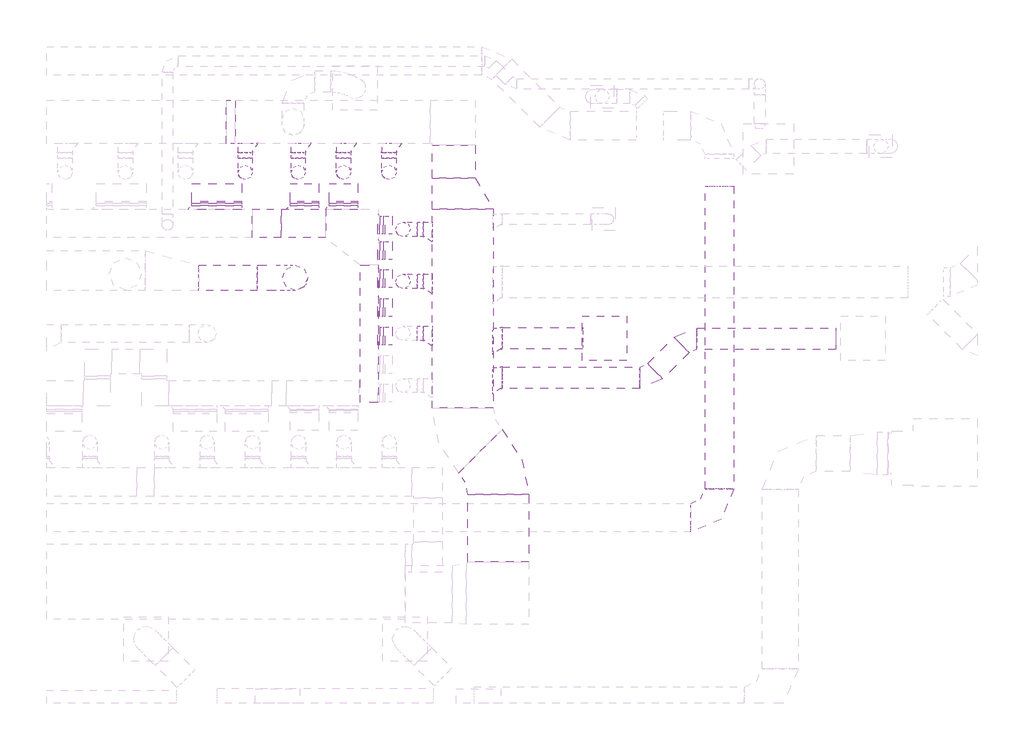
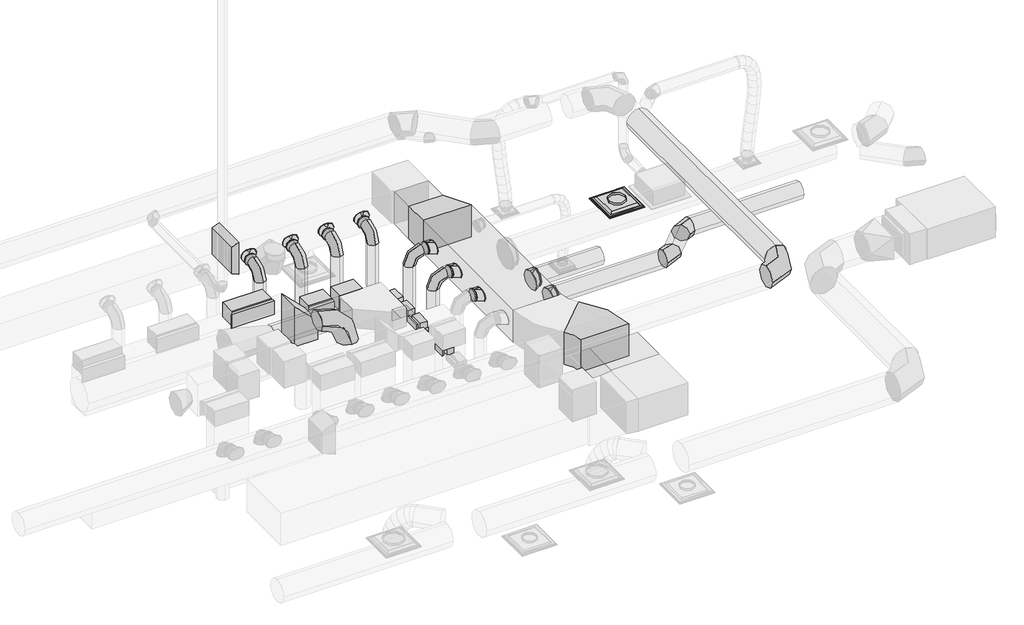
# One storey, part 25 of 33: 41 duct segments, 39 duct fittings, 1 air terminal.
"""IFC4 building model written with IfcOpenShell, lengths in millimetres."""

from ifc_helpers import new_model, si_unit, point, frame, frame_2d, origin, place, context, project, spatial, polyline, circle_curve, trimmed, segment, composite_curve, outline, extrude, transform, mapped, element, save
from components import air_terminal_a17ada07, rectangular_elbow_mitered_standard_85b63649, rectangular_elbow_mitered_standard_22d18bc9, rectangular_elbow_mitered_standard_7de0f92e, rectangular_elbow_radius_1_w_274ad7e4, rectangular_tap_beveled_standard_694a58d9, rectangular_tap_beveled_standard_61150e1b, rectangular_tap_beveled_standard_a3f55f82, rectangular_transition_angle_30_degree_23a220a2, rectangular_transition_angle_45_degree_105ad264, rectangular_transition_angle_45_degree_adbc5f9d, round_elbow_1_d_28128332, round_elbow_1_d_8aca8b6e, round_elbow_1_d_a253342a, round_elbow_1_5_d_893a4759, round_takeoff_shoe_standard_04262b54, round_takeoff_shoe_standard_1102fee2, round_takeoff_shoe_standard_53aee1e3

model = new_model("IFC4")

# Units and contexts
model_context = context("Model", 3, world=origin())
ifc_project = project(units=[si_unit("LENGTHUNIT", "METRE", prefix="MILLI")], contexts=[model_context])

# Site, building, storey
site = spatial("IfcSite", under=ifc_project)
building = spatial("IfcBuilding", under=site)
storey = spatial("IfcBuildingStorey", under=building, Name="T.O. SLAB - 1ST", Elevation=-25.4)

# Air terminal
placement = place(None, origin())
air_terminal_shape = air_terminal_a17ada07(model_context)
element("IfcAirTerminal", 1, ObjectType="Titus-Round_Neck_Supply_Diffuser-PCS_Surface_Mount : PCS AA-12_24x24", at=placement, inside=storey, context=model_context, shape_type="MappedRepresentation", body=[
    mapped(air_terminal_shape, transform((29610.05, 27237.2115966, 4940.3), x_axis=(1.0, 0.0, 0.0), y_axis=(0.0, -1.0, 0.0), z_axis=(0.0, 0.0, -1.0))),
])

# Duct fittings
rectangular_elbow_mitered_standard_shape = rectangular_elbow_mitered_standard_85b63649(model_context)
element("IfcDuctFitting", 2, ObjectType="Rectangular Elbow - Mitered : Standard", at=placement, inside=storey, context=model_context, shape_type="MappedRepresentation", body=[
    mapped(rectangular_elbow_mitered_standard_shape, transform((26562.2839544, 28077.4861634, 3251.2), x_axis=(0.0, 0.0, 1.0), y_axis=(-1.0, 0.0, 0.0), z_axis=(0.0, -1.0, 0.0))),
])
element("IfcDuctFitting", 3, ObjectType="Rectangular Elbow - Mitered : Standard", at=placement, inside=storey, context=model_context, shape_type="MappedRepresentation", body=[
    mapped(rectangular_elbow_mitered_standard_shape, transform((26562.2839544, 27671.0861634, 3251.2), x_axis=(0.0, 0.0, 1.0), y_axis=(-1.0, 0.0, 0.0), z_axis=(0.0, -1.0, 0.0))),
])
element("IfcDuctFitting", 4, ObjectType="Rectangular Elbow - Mitered : Standard", at=placement, inside=storey, context=model_context, shape_type="MappedRepresentation", body=[
    mapped(rectangular_elbow_mitered_standard_shape, transform((26562.2839544, 27264.6861634, 3251.2), x_axis=(0.0, 0.0, 1.0), y_axis=(-1.0, 0.0, 0.0), z_axis=(0.0, -1.0, 0.0))),
])
element("IfcDuctFitting", 5, ObjectType="Rectangular Elbow - Mitered : Standard", at=placement, inside=storey, context=model_context, shape_type="MappedRepresentation", body=[
    mapped(rectangular_elbow_mitered_standard_shape, transform((26562.2839544, 28477.5361634, 3251.2), x_axis=(0.0, 0.0, 1.0), y_axis=(-1.0, 0.0, 0.0), z_axis=(0.0, -1.0, 0.0))),
])
element("IfcDuctFitting", 6, ObjectType="Rectangular Elbow - Mitered : Standard", at=placement, inside=storey, context=model_context, shape_type="MappedRepresentation", body=[
    mapped(rectangular_elbow_mitered_standard_shape, transform((26562.2839544, 28836.3421042, 3251.2), x_axis=(0.0, 0.0, 1.0), y_axis=(-1.0, 0.0, 0.0), z_axis=(0.0, -1.0, 0.0))),
])
rectangular_elbow_mitered_standard_2_shape = rectangular_elbow_mitered_standard_22d18bc9(model_context)
element("IfcDuctFitting", 7, ObjectType="Rectangular Elbow - Mitered : Standard", at=placement, inside=storey, context=model_context, shape_type="MappedRepresentation", body=[
    mapped(rectangular_elbow_mitered_standard_2_shape, transform((24134.3886687, 29296.6861634, 3632.2), x_axis=(0.0, 0.0, 1.0), y_axis=(0.0, -1.0, 0.0), z_axis=(1.0, 0.0, 0.0))),
])
rectangular_elbow_mitered_standard_3_shape = rectangular_elbow_mitered_standard_7de0f92e(model_context)
element("IfcDuctFitting", 8, ObjectType="Rectangular Elbow - Mitered : Standard", at=placement, inside=storey, context=model_context, shape_type="MappedRepresentation", body=[
    mapped(rectangular_elbow_mitered_standard_3_shape, transform((25372.8804175, 29296.6861634, 3244.85), x_axis=(0.0, 0.0, 1.0), y_axis=(0.0, -1.0, 0.0), z_axis=(1.0, 0.0, 0.0))),
])
element("IfcDuctFitting", 9, ObjectType="Rectangular Elbow - Mitered : Standard", at=placement, inside=storey, context=model_context, shape_type="MappedRepresentation", body=[
    mapped(rectangular_elbow_mitered_standard_3_shape, transform((25924.724419, 29296.6861634, 3244.85), x_axis=(0.0, 1.0, 0.0), y_axis=(0.0, 0.0, -1.0), z_axis=(-1.0, 0.0, 0.0))),
])
rectangular_elbow_radius_1_w_shape = rectangular_elbow_radius_1_w_274ad7e4(model_context)
element("IfcDuctFitting", 10, ObjectType="Rectangular Elbow - Radius : 1 W", at=placement, inside=storey, context=model_context, shape_type="MappedRepresentation", body=[
    mapped(rectangular_elbow_radius_1_w_shape, transform((28113.1876835, 25385.1874969, 4038.6), x_axis=(0.0, 1.0, 0.0), y_axis=(-1.0, 0.0, 0.0), z_axis=(0.0, 0.0, 1.0))),
])
rectangular_tap_beveled_standard_shape = rectangular_tap_beveled_standard_694a58d9(model_context)
element("IfcDuctFitting", 11, ObjectType="Rectangular Tap - Beveled : Standard", at=placement, inside=storey, context=model_context, shape_type="MappedRepresentation", body=[
    mapped(rectangular_tap_beveled_standard_shape, transform((26413.4288098, 28077.4861634, 3251.2), x_axis=(1.0, 0.0, 0.0), y_axis=(0.0, -1.0, 0.0), z_axis=(0.0, 0.0, -1.0))),
])
element("IfcDuctFitting", 12, ObjectType="Rectangular Tap - Beveled : Standard", at=placement, inside=storey, context=model_context, shape_type="MappedRepresentation", body=[
    mapped(rectangular_tap_beveled_standard_shape, transform((26413.4288098, 27671.0861634, 3251.2), x_axis=(1.0, 0.0, 0.0), y_axis=(0.0, -1.0, 0.0), z_axis=(0.0, 0.0, -1.0))),
])
element("IfcDuctFitting", 13, ObjectType="Rectangular Tap - Beveled : Standard", at=placement, inside=storey, context=model_context, shape_type="MappedRepresentation", body=[
    mapped(rectangular_tap_beveled_standard_shape, transform((26413.4288098, 27264.6861634, 3251.2), x_axis=(1.0, 0.0, 0.0), y_axis=(0.0, -1.0, 0.0), z_axis=(0.0, 0.0, -1.0))),
])
element("IfcDuctFitting", 14, ObjectType="Rectangular Tap - Beveled : Standard", at=placement, inside=storey, context=model_context, shape_type="MappedRepresentation", body=[
    mapped(rectangular_tap_beveled_standard_shape, transform((26413.4288098, 28477.5361634, 3252.9955803), x_axis=(1.0, 0.0, 0.0), y_axis=(0.0, -1.0, 0.0), z_axis=(0.0, 0.0, -1.0))),
])
element("IfcDuctFitting", 15, ObjectType="Rectangular Tap - Beveled : Standard", at=placement, inside=storey, context=model_context, shape_type="MappedRepresentation", body=[
    mapped(rectangular_tap_beveled_standard_shape, transform((26413.4288098, 28836.3421042, 3252.9955803), x_axis=(1.0, 0.0, 0.0), y_axis=(0.0, -1.0, 0.0), z_axis=(0.0, 0.0, -1.0))),
])
rectangular_tap_beveled_standard_2_shape = rectangular_tap_beveled_standard_61150e1b(model_context)
element("IfcDuctFitting", 16, ObjectType="Rectangular Tap - Beveled : Standard", at=placement, inside=storey, context=model_context, shape_type="MappedRepresentation", body=[
    mapped(rectangular_tap_beveled_standard_2_shape, transform((24134.3886687, 29062.2191303, 3632.2), x_axis=(0.0, 1.0, 0.0), y_axis=(1.0, 0.0, 0.0), z_axis=(0.0, 0.0, -1.0))),
])
rectangular_tap_beveled_standard_3_shape = rectangular_tap_beveled_standard_a3f55f82(model_context)
element("IfcDuctFitting", 17, ObjectType="Rectangular Tap - Beveled : Standard", at=placement, inside=storey, context=model_context, shape_type="MappedRepresentation", body=[
    mapped(rectangular_tap_beveled_standard_3_shape, transform((25372.8804175, 29062.2191303, 3244.85), x_axis=(0.0, 1.0, 0.0), y_axis=(1.0, 0.0, 0.0), z_axis=(0.0, 0.0, -1.0))),
])
element("IfcDuctFitting", 18, ObjectType="Rectangular Tap - Beveled : Standard", at=placement, inside=storey, context=model_context, shape_type="MappedRepresentation", body=[
    mapped(rectangular_tap_beveled_standard_3_shape, transform((25924.724419, 29062.2191303, 3244.85), x_axis=(0.0, 1.0, 0.0), y_axis=(1.0, 0.0, 0.0), z_axis=(0.0, 0.0, -1.0))),
])
rectangular_transition_angle_30_degree_shape = rectangular_transition_angle_30_degree_23a220a2(model_context)
element("IfcDuctFitting", 19, ObjectType="Rectangular Transition - Angle : 30 Degree", at=placement, inside=storey, context=model_context, shape_type="MappedRepresentation", body=[
    mapped(rectangular_transition_angle_30_degree_shape, transform((27607.302516, 29061.8374969, 4038.6), x_axis=(0.0, 1.0, 0.0), y_axis=(-1.0, 0.0, 0.0), z_axis=(0.0, 0.0, 1.0))),
])
rectangular_transition_angle_45_degree_shape = rectangular_transition_angle_45_degree_105ad264(model_context)
element("IfcDuctFitting", 20, ObjectType="Rectangular Transition - Angle : 45 Degree", at=placement, inside=storey, context=model_context, shape_type="MappedRepresentation", body=[
    mapped(rectangular_transition_angle_45_degree_shape, transform((24393.5224083, 30294.4408687, 4038.6), x_axis=(-1.0, 0.0, 0.0), y_axis=(0.0, -1.0, 0.0), z_axis=(0.0, 0.0, 1.0))),
])
rectangular_transition_angle_45_degree_2_shape = rectangular_transition_angle_45_degree_adbc5f9d(model_context)
element("IfcDuctFitting", 21, ObjectType="Rectangular Transition - Angle : 45 Degree", at=placement, inside=storey, context=model_context, shape_type="MappedRepresentation", body=[
    mapped(rectangular_transition_angle_45_degree_2_shape, transform((24636.296851, 28859.0191303, 3456.94), x_axis=(1.0, 0.0, 0.0), y_axis=(0.0, 1.0, 0.0), z_axis=(0.0, 0.0, 1.0))),
])
round_elbow_1_d_shape = round_elbow_1_d_28128332(model_context)
element("IfcDuctFitting", 22, ObjectType="Round Elbow : 1 D", at=placement, inside=storey, context=model_context, shape_type="MappedRepresentation", body=[
    mapped(round_elbow_1_d_shape, transform((30239.8489271, 26677.9153476, 4038.6), x_axis=(1.0, 0.0, 0.0), y_axis=(0.0, 1.0, 0.0), z_axis=(0.0, 0.0, 1.0))),
])
element("IfcDuctFitting", 23, ObjectType="Round Elbow : 1 D", at=placement, inside=storey, context=model_context, shape_type="MappedRepresentation", body=[
    mapped(round_elbow_1_d_shape, transform((30792.2668556, 27230.3332761, 4038.6), x_axis=(-1.0, 0.0, 0.0), y_axis=(0.0, -1.0, 0.0), z_axis=(0.0, 0.0, 1.0))),
])
round_elbow_1_d_2_shape = round_elbow_1_d_8aca8b6e(model_context)
element("IfcDuctFitting", 24, ObjectType="Round Elbow : 1 D", at=placement, inside=storey, context=model_context, shape_type="MappedRepresentation", body=[
    mapped(round_elbow_1_d_2_shape, transform((31236.91547, 24698.325, 4648.2), x_axis=(1.0, 0.0, 0.0), y_axis=(0.0, 1.0, 0.0), z_axis=(0.0, 0.0, 1.0))),
])
round_elbow_1_d_3_shape = round_elbow_1_d_a253342a(model_context)
element("IfcDuctFitting", 25, ObjectType="Round Elbow : 1 D", at=placement, inside=storey, context=model_context, shape_type="MappedRepresentation", body=[
    mapped(round_elbow_1_d_3_shape, transform((26567.7932215, 29579.704725, 4038.6), x_axis=(0.0, -1.0, 0.0), y_axis=(0.0, 0.0, -1.0), z_axis=(1.0, 0.0, 0.0))),
])
element("IfcDuctFitting", 26, ObjectType="Round Elbow : 1 D", at=placement, inside=storey, context=model_context, shape_type="MappedRepresentation", body=[
    mapped(round_elbow_1_d_3_shape, transform((25926.4432215, 29579.704725, 4038.6), x_axis=(0.0, -1.0, 0.0), y_axis=(0.0, 0.0, -1.0), z_axis=(1.0, 0.0, 0.0))),
])
element("IfcDuctFitting", 27, ObjectType="Round Elbow : 1 D", at=placement, inside=storey, context=model_context, shape_type="MappedRepresentation", body=[
    mapped(round_elbow_1_d_3_shape, transform((25285.0932215, 29579.704725, 4038.6), x_axis=(0.0, -1.0, 0.0), y_axis=(0.0, 0.0, -1.0), z_axis=(1.0, 0.0, 0.0))),
])
element("IfcDuctFitting", 28, ObjectType="Round Elbow : 1 D", at=placement, inside=storey, context=model_context, shape_type="MappedRepresentation", body=[
    mapped(round_elbow_1_d_3_shape, transform((24535.7932215, 29579.704725, 4038.6), x_axis=(0.0, -1.0, 0.0), y_axis=(0.0, 0.0, -1.0), z_axis=(1.0, 0.0, 0.0))),
])
element("IfcDuctFitting", 29, ObjectType="Round Elbow : 1 D", at=placement, inside=storey, context=model_context, shape_type="MappedRepresentation", body=[
    mapped(round_elbow_1_d_3_shape, transform((26765.4839578, 28039.4124882, 4038.6), x_axis=(0.0, 0.0, 1.0), y_axis=(1.0, 0.0, 0.0), z_axis=(0.0, 1.0, 0.0))),
])
element("IfcDuctFitting", 30, ObjectType="Round Elbow : 1 D", at=placement, inside=storey, context=model_context, shape_type="MappedRepresentation", body=[
    mapped(round_elbow_1_d_3_shape, transform((26765.4839578, 28776.0124882, 4038.6), x_axis=(0.0, 0.0, 1.0), y_axis=(1.0, 0.0, 0.0), z_axis=(0.0, 1.0, 0.0))),
])
round_elbow_1_5_d_shape = round_elbow_1_5_d_893a4759(model_context)
element("IfcDuctFitting", 31, ObjectType="Round Elbow : 1.5 D", at=placement, inside=storey, context=model_context, shape_type="MappedRepresentation", body=[
    mapped(round_elbow_1_5_d_shape, transform((25241.4839544, 28090.6045473, 3892.55), x_axis=(1.0, 0.0, 0.0), y_axis=(0.0, 0.0, -1.0), z_axis=(0.0, 1.0, 0.0))),
])
round_takeoff_shoe_standard_shape = round_takeoff_shoe_standard_04262b54(model_context)
element("IfcDuctFitting", 32, ObjectType="Round Takeoff - Shoe : Standard", at=placement, inside=storey, context=model_context, shape_type="MappedRepresentation", body=[
    mapped(round_takeoff_shoe_standard_shape, transform((26567.7932215, 29989.6408687, 4038.6), x_axis=(0.0, -1.0, 0.0), y_axis=(-1.0, 0.0, 0.0), z_axis=(0.0, 0.0, -1.0))),
])
element("IfcDuctFitting", 33, ObjectType="Round Takeoff - Shoe : Standard", at=placement, inside=storey, context=model_context, shape_type="MappedRepresentation", body=[
    mapped(round_takeoff_shoe_standard_shape, transform((25926.4432215, 29989.6408687, 4038.6), x_axis=(0.0, -1.0, 0.0), y_axis=(-1.0, 0.0, 0.0), z_axis=(0.0, 0.0, -1.0))),
])
element("IfcDuctFitting", 34, ObjectType="Round Takeoff - Shoe : Standard", at=placement, inside=storey, context=model_context, shape_type="MappedRepresentation", body=[
    mapped(round_takeoff_shoe_standard_shape, transform((25285.0932215, 29989.6408687, 4038.6), x_axis=(0.0, -1.0, 0.0), y_axis=(-1.0, 0.0, 0.0), z_axis=(0.0, 0.0, -1.0))),
])
element("IfcDuctFitting", 35, ObjectType="Round Takeoff - Shoe : Standard", at=placement, inside=storey, context=model_context, shape_type="MappedRepresentation", body=[
    mapped(round_takeoff_shoe_standard_shape, transform((24535.7932215, 29989.6408687, 4038.6), x_axis=(0.0, -1.0, 0.0), y_axis=(-1.0, 0.0, 0.0), z_axis=(0.0, 0.0, -1.0))),
])
round_takeoff_shoe_standard_2_shape = round_takeoff_shoe_standard_1102fee2(model_context)
element("IfcDuctFitting", 36, ObjectType="Round Takeoff - Shoe : Standard", at=placement, inside=storey, context=model_context, shape_type="MappedRepresentation", body=[
    mapped(round_takeoff_shoe_standard_2_shape, transform((27175.502516, 27302.8124882, 4038.6), x_axis=(-1.0, 0.0, 0.0), y_axis=(0.0, -1.0000000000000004, 0.0), z_axis=(0.0, 0.0, 1.0000000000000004))),
])
element("IfcDuctFitting", 37, ObjectType="Round Takeoff - Shoe : Standard", at=placement, inside=storey, context=model_context, shape_type="MappedRepresentation", body=[
    mapped(round_takeoff_shoe_standard_2_shape, transform((27175.502516, 28039.4124882, 4038.6), x_axis=(-1.0, 0.0, 0.0), y_axis=(0.0, -1.0000000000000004, 0.0), z_axis=(0.0, 0.0, 1.0000000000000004))),
])
element("IfcDuctFitting", 38, ObjectType="Round Takeoff - Shoe : Standard", at=placement, inside=storey, context=model_context, shape_type="MappedRepresentation", body=[
    mapped(round_takeoff_shoe_standard_2_shape, transform((27175.502516, 28776.0124882, 4038.6), x_axis=(-1.0, 0.0, 0.0), y_axis=(0.0, -1.0000000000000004, 0.0), z_axis=(0.0, 0.0, 1.0000000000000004))),
])
round_takeoff_shoe_standard_3_shape = round_takeoff_shoe_standard_53aee1e3(model_context)
element("IfcDuctFitting", 39, ObjectType="Round Takeoff - Shoe : Standard", at=placement, inside=storey, context=model_context, shape_type="MappedRepresentation", body=[
    mapped(round_takeoff_shoe_standard_3_shape, transform((28039.102516, 26677.9153476, 4038.6), x_axis=(1.0, 0.0, 0.0), y_axis=(0.0, 1.0000000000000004, 0.0), z_axis=(0.0, 0.0, 1.0000000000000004))),
])
element("IfcDuctFitting", 40, ObjectType="Round Takeoff - Shoe : Standard", at=placement, inside=storey, context=model_context, shape_type="MappedRepresentation", body=[
    mapped(round_takeoff_shoe_standard_3_shape, transform((28039.102516, 27237.2114411, 4038.6), x_axis=(1.0, 0.0, 0.0), y_axis=(0.0, 1.0000000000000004, 0.0), z_axis=(0.0, 0.0, 1.0000000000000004))),
])

# Duct segments
element("IfcDuctSegment", 41, ObjectType="Mitered Elbows / Taps", at=placement, inside=storey, context=model_context, shape_type="SweptSolid", body=[
    extrude(outline(polyline([(25042.696851, 28655.8191303), (25042.696851, 29062.2191303), (25671.7169326, 29062.2191303), (25671.7169326, 28655.8191303), (25042.696851, 28655.8191303)])), frame((0.0, 0.0, 3075.94), z_axis=(0.0, 0.0, 1.0), x_axis=(1.0, 0.0, 0.0)), (0.0, 0.0, 1.0), 355.6),
])
element("IfcDuctSegment", 42, ObjectType="Mitered Elbows / Taps", at=placement, inside=storey, context=model_context, shape_type="SweptSolid", body=[
    extrude(outline(polyline([(24489.9886687, 29169.6861634), (23778.7886687, 29169.6861634), (23778.7886687, 29423.6861634), (24489.9886687, 29423.6861634), (24489.9886687, 29169.6861634)])), frame((0.0, 0.0, 3010.628306), z_axis=(0.0, 0.0, 1.0), x_axis=(1.0, 0.0, 0.0)), (0.0, 0.0, 1.0), 469.171694),
])
element("IfcDuctSegment", 43, ObjectType="Mitered Elbows / Taps", at=placement, inside=storey, context=model_context, shape_type="SweptSolid", body=[
    extrude(outline(polyline([(23778.7886687, 29144.2861634), (24489.9886687, 29144.2861634), (24489.9886687, 29113.0191303), (23778.7886687, 29113.0191303), (23778.7886687, 29144.2861634)])), frame((0.0, 0.0, 3505.2), z_axis=(0.0, 0.0, 1.0), x_axis=(1.0, 0.0, 0.0)), (0.0, 0.0, 1.0), 254.0),
])
element("IfcDuctSegment", 44, ObjectType="Mitered Elbows / Taps", at=placement, inside=storey, context=model_context, shape_type="SweptSolid", body=[
    extrude(outline(polyline([(25576.0804175, 29169.6861634), (25169.6804175, 29169.6861634), (25169.6804175, 29423.6861634), (25576.0804175, 29423.6861634), (25576.0804175, 29169.6861634)])), frame((0.0, 0.0, 3010.628306), z_axis=(0.0, 0.0, 1.0), x_axis=(1.0, 0.0, 0.0)), (0.0, 0.0, 1.0), 81.821694),
])
element("IfcDuctSegment", 45, ObjectType="Mitered Elbows / Taps", at=placement, inside=storey, context=model_context, shape_type="SweptSolid", body=[
    extrude(outline(polyline([(25169.6804175, 29144.2861634), (25576.0804175, 29144.2861634), (25576.0804175, 29113.0191303), (25169.6804175, 29113.0191303), (25169.6804175, 29144.2861634)])), frame((0.0, 0.0, 3117.85), z_axis=(0.0, 0.0, 1.0), x_axis=(1.0, 0.0, 0.0)), (0.0, 0.0, 1.0), 254.0),
])
element("IfcDuctSegment", 46, ObjectType="Mitered Elbows / Taps", at=placement, inside=storey, context=model_context, shape_type="SweptSolid", body=[
    extrude(outline(polyline([(26127.924419, 29169.6861634), (25721.524419, 29169.6861634), (25721.524419, 29423.6861634), (26127.924419, 29423.6861634), (26127.924419, 29169.6861634)])), frame((0.0, 0.0, 3010.628306), z_axis=(0.0, 0.0, 1.0), x_axis=(1.0, 0.0, 0.0)), (0.0, 0.0, 1.0), 81.821694),
])
element("IfcDuctSegment", 47, ObjectType="Mitered Elbows / Taps", at=placement, inside=storey, context=model_context, shape_type="SweptSolid", body=[
    extrude(outline(polyline([(26159.4288098, 28268.7330361), (26413.4288098, 28268.7330361), (26413.4288098, 26325.5924309), (26159.4288098, 26325.5924309), (26159.4288098, 28268.7330361)])), frame((0.0, 0.0, 3124.2), z_axis=(0.0, 0.0, 1.0), x_axis=(1.0, 0.0, 0.0)), (0.0, 0.0, 1.0), 355.6),
])
element("IfcDuctSegment", 48, ObjectType="Mitered Elbows / Taps", at=placement, inside=storey, context=model_context, shape_type="SweptSolid", body=[
    extrude(outline(polyline([(26511.4839544, 27950.4861634), (26511.4839544, 28204.4861634), (26613.0839544, 28204.4861634), (26613.0839544, 27950.4861634), (26511.4839544, 27950.4861634)])), frame((0.0, 0.0, 3010.628306), z_axis=(0.0, 0.0, 1.0), x_axis=(1.0, 0.0, 0.0)), (0.0, 0.0, 1.0), 164.371694),
])
element("IfcDuctSegment", 49, ObjectType="Mitered Elbows / Taps", at=placement, inside=storey, context=model_context, shape_type="SweptSolid", body=[
    extrude(outline(polyline([(26486.0839544, 28204.4861634), (26486.0839544, 27950.4861634), (26438.8288098, 27950.4861634), (26438.8288098, 28204.4861634), (26486.0839544, 28204.4861634)])), frame((0.0, 0.0, 3200.4), z_axis=(0.0, 0.0, 1.0), x_axis=(1.0, 0.0, 0.0)), (0.0, 0.0, 1.0), 101.6),
])
element("IfcDuctSegment", 50, ObjectType="Mitered Elbows / Taps", at=placement, inside=storey, context=model_context, shape_type="SweptSolid", body=[
    extrude(outline(polyline([(26511.4839544, 27544.0861634), (26511.4839544, 27798.0861634), (26613.0839544, 27798.0861634), (26613.0839544, 27544.0861634), (26511.4839544, 27544.0861634)])), frame((0.0, 0.0, 3010.628306), z_axis=(0.0, 0.0, 1.0), x_axis=(1.0, 0.0, 0.0)), (0.0, 0.0, 1.0), 164.371694),
])
element("IfcDuctSegment", 51, ObjectType="Mitered Elbows / Taps", at=placement, inside=storey, context=model_context, shape_type="SweptSolid", body=[
    extrude(outline(polyline([(26486.0839544, 27798.0861634), (26486.0839544, 27544.0861634), (26438.8288098, 27544.0861634), (26438.8288098, 27798.0861634), (26486.0839544, 27798.0861634)])), frame((0.0, 0.0, 3200.4), z_axis=(0.0, 0.0, 1.0), x_axis=(1.0, 0.0, 0.0)), (0.0, 0.0, 1.0), 101.6),
])
element("IfcDuctSegment", 52, ObjectType="Mitered Elbows / Taps", at=placement, inside=storey, context=model_context, shape_type="SweptSolid", body=[
    extrude(outline(polyline([(26511.4839544, 27137.6861634), (26511.4839544, 27391.6861634), (26613.0839544, 27391.6861634), (26613.0839544, 27137.6861634), (26511.4839544, 27137.6861634)])), frame((0.0, 0.0, 3010.628306), z_axis=(0.0, 0.0, 1.0), x_axis=(1.0, 0.0, 0.0)), (0.0, 0.0, 1.0), 164.371694),
])
element("IfcDuctSegment", 53, ObjectType="Mitered Elbows / Taps", at=placement, inside=storey, context=model_context, shape_type="SweptSolid", body=[
    extrude(outline(polyline([(26486.0839544, 27391.6861634), (26486.0839544, 27137.6861634), (26438.8288098, 27137.6861634), (26438.8288098, 27391.6861634), (26486.0839544, 27391.6861634)])), frame((0.0, 0.0, 3200.4), z_axis=(0.0, 0.0, 1.0), x_axis=(1.0, 0.0, 0.0)), (0.0, 0.0, 1.0), 101.6),
])
element("IfcDuctSegment", 54, ObjectType="Mitered Elbows / Taps", at=placement, inside=storey, context=model_context, shape_type="SweptSolid", body=[
    extrude(outline(polyline([(26511.4839544, 28350.5361634), (26511.4839544, 28604.5361634), (26613.0839544, 28604.5361634), (26613.0839544, 28350.5361634), (26511.4839544, 28350.5361634)])), frame((0.0, 0.0, 3010.628306), z_axis=(0.0, 0.0, 1.0), x_axis=(1.0, 0.0, 0.0)), (0.0, 0.0, 1.0), 164.371694),
])
element("IfcDuctSegment", 55, ObjectType="Mitered Elbows / Taps", at=placement, inside=storey, context=model_context, shape_type="SweptSolid", body=[
    extrude(outline(polyline([(26486.0839544, 28604.5361634), (26486.0839544, 28350.5361634), (26438.8288098, 28350.5361634), (26438.8288098, 28604.5361634), (26486.0839544, 28604.5361634)])), frame((0.0, 0.0, 3200.4), z_axis=(0.0, 0.0, 1.0), x_axis=(1.0, 0.0, 0.0)), (0.0, 0.0, 1.0), 101.6),
])
element("IfcDuctSegment", 56, ObjectType="Mitered Elbows / Taps", at=placement, inside=storey, context=model_context, shape_type="SweptSolid", body=[
    extrude(outline(polyline([(26511.4839544, 28709.3421042), (26511.4839544, 28963.3421042), (26613.0839544, 28963.3421042), (26613.0839544, 28709.3421042), (26511.4839544, 28709.3421042)])), frame((0.0, 0.0, 3010.628306), z_axis=(0.0, 0.0, 1.0), x_axis=(1.0, 0.0, 0.0)), (0.0, 0.0, 1.0), 164.371694),
])
element("IfcDuctSegment", 57, ObjectType="Mitered Elbows / Taps", at=placement, inside=storey, context=model_context, shape_type="SweptSolid", body=[
    extrude(outline(polyline([(26486.0839544, 28963.3421042), (26486.0839544, 28709.3421042), (26438.8288098, 28709.3421042), (26438.8288098, 28963.3421042), (26486.0839544, 28963.3421042)])), frame((0.0, 0.0, 3200.4), z_axis=(0.0, 0.0, 1.0), x_axis=(1.0, 0.0, 0.0)), (0.0, 0.0, 1.0), 101.6),
])
element("IfcDuctSegment", 58, ObjectType="Mitered Elbows / Taps", at=placement, inside=storey, context=model_context, shape_type="SweptSolid", body=[
    extrude(outline(polyline([(25721.524419, 29144.2861634), (26127.924419, 29144.2861634), (26127.924419, 29113.0191303), (25721.524419, 29113.0191303), (25721.524419, 29144.2861634)])), frame((0.0, 0.0, 3117.85), z_axis=(0.0, 0.0, 1.0), x_axis=(1.0, 0.0, 0.0)), (0.0, 0.0, 1.0), 254.0),
])
element("IfcDuctSegment", 59, ObjectType="Radius Elbows / Tees", at=placement, inside=storey, context=model_context, shape_type="SweptSolid", body=[
    extrude(outline(polyline([(28544.9876835, 24075.8195003), (27681.3876835, 24075.8195003), (27681.3876835, 25027.4726644), (28544.9876835, 25027.4726644), (28544.9876835, 24075.8195003)])), frame((0.0, 0.0, 3733.8), z_axis=(0.0, 0.0, 1.0), x_axis=(1.0, 0.0, 0.0)), (0.0, 0.0, 1.0), 609.6),
])
element("IfcDuctSegment", 60, ObjectType="Radius Elbows / Tees", at=placement, inside=storey, context=model_context, shape_type="SweptSolid", body=[
    extrude(outline(polyline([(28039.102516, 26248.7874969), (27175.502516, 26248.7874969), (27175.502516, 29061.8374969), (28039.102516, 29061.8374969), (28039.102516, 26248.7874969)])), frame((0.0, 0.0, 3733.8), z_axis=(0.0, 0.0, 1.0), x_axis=(1.0, 0.0, 0.0)), (0.0, 0.0, 1.0), 609.6),
])
element("IfcDuctSegment", 61, ObjectType="Radius Elbows / Tees", at=placement, inside=storey, context=model_context, shape_type="SweptSolid", body=[
    extrude(outline(polyline([(27785.102516, 29501.778402), (27175.502516, 29501.778402), (27175.502516, 29964.2408687), (27785.102516, 29964.2408687), (27785.102516, 29501.778402)])), frame((0.0, 0.0, 3733.8), z_axis=(0.0, 0.0, 1.0), x_axis=(1.0, 0.0, 0.0)), (0.0, 0.0, 1.0), 609.6),
])
element("IfcDuctSegment", 62, ObjectType="Taps", at=placement, inside=storey, context=model_context, shape_type="SweptSolid", body=[
    extrude(outline(composite_curve([segment(trimmed(circle_curve(frame_2d((4038.6, 26567.7932215)), 101.6), [point((4038.6, 26466.1932215))], [point((3937.0, 26567.7932215))], False, "CARTESIAN"), True, "CONTINUOUS"), segment(trimmed(circle_curve(frame_2d((4038.6, 26567.7932215)), 101.6), [point((3937.0, 26567.7932215))], [point((4038.6, 26669.3932215))], False, "CARTESIAN"), True, "CONTINUOUS"), segment(trimmed(circle_curve(frame_2d((4038.6, 26567.7932215)), 101.6), [point((4038.6, 26669.3932215))], [point((4140.2, 26567.7932215))], False, "CARTESIAN"), True, "CONTINUOUS"), segment(trimmed(circle_curve(frame_2d((4038.6, 26567.7932215)), 101.6), [point((4140.2, 26567.7932215))], [point((4038.6, 26466.1932215))], False, "CARTESIAN"), True, "CONTINUOUS")], self_intersect=False)), frame((0.0, 29782.904725, 0.0), z_axis=(0.0, 1.0, 0.0), x_axis=(0.0, 0.0, 1.0)), (0.0, 0.0, 1.0), 79.7361437),
])
element("IfcDuctSegment", 63, ObjectType="Taps", at=placement, inside=storey, context=model_context, shape_type="SweptSolid", body=[
    extrude(outline(composite_curve([segment(trimmed(circle_curve(frame_2d((26567.7932215, 29579.704725)), 101.6), [point((26669.3932215, 29579.704725))], [point((26567.7932215, 29478.104725))], False, "CARTESIAN"), True, "CONTINUOUS"), segment(trimmed(circle_curve(frame_2d((26567.7932215, 29579.704725)), 101.6), [point((26567.7932215, 29478.104725))], [point((26466.1932215, 29579.704725))], False, "CARTESIAN"), True, "CONTINUOUS"), segment(trimmed(circle_curve(frame_2d((26567.7932215, 29579.704725)), 101.6), [point((26466.1932215, 29579.704725))], [point((26567.7932215, 29681.304725))], False, "CARTESIAN"), True, "CONTINUOUS"), segment(trimmed(circle_curve(frame_2d((26567.7932215, 29579.704725)), 101.6), [point((26567.7932215, 29681.304725))], [point((26669.3932215, 29579.704725))], False, "CARTESIAN"), True, "CONTINUOUS")], self_intersect=False)), frame((0.0, 0.0, 3010.628306), z_axis=(0.0, 0.0, 1.0), x_axis=(1.0, 0.0, 0.0)), (0.0, 0.0, 1.0), 824.771694),
])
element("IfcDuctSegment", 64, ObjectType="Taps", at=placement, inside=storey, context=model_context, shape_type="SweptSolid", body=[
    extrude(outline(composite_curve([segment(trimmed(circle_curve(frame_2d((4038.6, 25926.4432215)), 101.6), [point((4038.6, 25824.8432215))], [point((3937.0, 25926.4432215))], False, "CARTESIAN"), True, "CONTINUOUS"), segment(trimmed(circle_curve(frame_2d((4038.6, 25926.4432215)), 101.6), [point((3937.0, 25926.4432215))], [point((4038.6, 26028.0432215))], False, "CARTESIAN"), True, "CONTINUOUS"), segment(trimmed(circle_curve(frame_2d((4038.6, 25926.4432215)), 101.6), [point((4038.6, 26028.0432215))], [point((4140.2, 25926.4432215))], False, "CARTESIAN"), True, "CONTINUOUS"), segment(trimmed(circle_curve(frame_2d((4038.6, 25926.4432215)), 101.6), [point((4140.2, 25926.4432215))], [point((4038.6, 25824.8432215))], False, "CARTESIAN"), True, "CONTINUOUS")], self_intersect=False)), frame((0.0, 29782.904725, 0.0), z_axis=(0.0, 1.0, 0.0), x_axis=(0.0, 0.0, 1.0)), (0.0, 0.0, 1.0), 79.7361437),
])
element("IfcDuctSegment", 65, ObjectType="Taps", at=placement, inside=storey, context=model_context, shape_type="SweptSolid", body=[
    extrude(outline(composite_curve([segment(trimmed(circle_curve(frame_2d((25926.4432215, 29579.704725)), 101.6), [point((26028.0432215, 29579.704725))], [point((25926.4432215, 29478.104725))], False, "CARTESIAN"), True, "CONTINUOUS"), segment(trimmed(circle_curve(frame_2d((25926.4432215, 29579.704725)), 101.6), [point((25926.4432215, 29478.104725))], [point((25824.8432215, 29579.704725))], False, "CARTESIAN"), True, "CONTINUOUS"), segment(trimmed(circle_curve(frame_2d((25926.4432215, 29579.704725)), 101.6), [point((25824.8432215, 29579.704725))], [point((25926.4432215, 29681.304725))], False, "CARTESIAN"), True, "CONTINUOUS"), segment(trimmed(circle_curve(frame_2d((25926.4432215, 29579.704725)), 101.6), [point((25926.4432215, 29681.304725))], [point((26028.0432215, 29579.704725))], False, "CARTESIAN"), True, "CONTINUOUS")], self_intersect=False)), frame((0.0, 0.0, 3010.628306), z_axis=(0.0, 0.0, 1.0), x_axis=(1.0, 0.0, 0.0)), (0.0, 0.0, 1.0), 824.771694),
])
element("IfcDuctSegment", 66, ObjectType="Taps", at=placement, inside=storey, context=model_context, shape_type="SweptSolid", body=[
    extrude(outline(composite_curve([segment(trimmed(circle_curve(frame_2d((4038.6, 25285.0932215)), 101.6), [point((4038.6, 25183.4932215))], [point((3937.0, 25285.0932215))], False, "CARTESIAN"), True, "CONTINUOUS"), segment(trimmed(circle_curve(frame_2d((4038.6, 25285.0932215)), 101.6), [point((3937.0, 25285.0932215))], [point((4038.6, 25386.6932215))], False, "CARTESIAN"), True, "CONTINUOUS"), segment(trimmed(circle_curve(frame_2d((4038.6, 25285.0932215)), 101.6), [point((4038.6, 25386.6932215))], [point((4140.2, 25285.0932215))], False, "CARTESIAN"), True, "CONTINUOUS"), segment(trimmed(circle_curve(frame_2d((4038.6, 25285.0932215)), 101.6), [point((4140.2, 25285.0932215))], [point((4038.6, 25183.4932215))], False, "CARTESIAN"), True, "CONTINUOUS")], self_intersect=False)), frame((0.0, 29782.904725, 0.0), z_axis=(0.0, 1.0, 0.0), x_axis=(0.0, 0.0, 1.0)), (0.0, 0.0, 1.0), 79.7361437),
])
element("IfcDuctSegment", 67, ObjectType="Taps", at=placement, inside=storey, context=model_context, shape_type="SweptSolid", body=[
    extrude(outline(composite_curve([segment(trimmed(circle_curve(frame_2d((25285.0932215, 29579.704725)), 101.6), [point((25386.6932215, 29579.704725))], [point((25285.0932215, 29478.104725))], False, "CARTESIAN"), True, "CONTINUOUS"), segment(trimmed(circle_curve(frame_2d((25285.0932215, 29579.704725)), 101.6), [point((25285.0932215, 29478.104725))], [point((25183.4932215, 29579.704725))], False, "CARTESIAN"), True, "CONTINUOUS"), segment(trimmed(circle_curve(frame_2d((25285.0932215, 29579.704725)), 101.6), [point((25183.4932215, 29579.704725))], [point((25285.0932215, 29681.304725))], False, "CARTESIAN"), True, "CONTINUOUS"), segment(trimmed(circle_curve(frame_2d((25285.0932215, 29579.704725)), 101.6), [point((25285.0932215, 29681.304725))], [point((25386.6932215, 29579.704725))], False, "CARTESIAN"), True, "CONTINUOUS")], self_intersect=False)), frame((0.0, 0.0, 3010.628306), z_axis=(0.0, 0.0, 1.0), x_axis=(1.0, 0.0, 0.0)), (0.0, 0.0, 1.0), 824.771694),
])
element("IfcDuctSegment", 68, ObjectType="Taps", at=placement, inside=storey, context=model_context, shape_type="SweptSolid", body=[
    extrude(outline(composite_curve([segment(trimmed(circle_curve(frame_2d((4038.6, 24535.7932215)), 101.6), [point((4038.6, 24434.1932215))], [point((3937.0, 24535.7932215))], False, "CARTESIAN"), True, "CONTINUOUS"), segment(trimmed(circle_curve(frame_2d((4038.6, 24535.7932215)), 101.6), [point((3937.0, 24535.7932215))], [point((4038.6, 24637.3932215))], False, "CARTESIAN"), True, "CONTINUOUS"), segment(trimmed(circle_curve(frame_2d((4038.6, 24535.7932215)), 101.6), [point((4038.6, 24637.3932215))], [point((4140.2, 24535.7932215))], False, "CARTESIAN"), True, "CONTINUOUS"), segment(trimmed(circle_curve(frame_2d((4038.6, 24535.7932215)), 101.6), [point((4140.2, 24535.7932215))], [point((4038.6, 24434.1932215))], False, "CARTESIAN"), True, "CONTINUOUS")], self_intersect=False)), frame((0.0, 29782.904725, 0.0), z_axis=(0.0, 1.0, 0.0), x_axis=(0.0, 0.0, 1.0)), (0.0, 0.0, 1.0), 79.7361437),
])
element("IfcDuctSegment", 69, ObjectType="Taps", at=placement, inside=storey, context=model_context, shape_type="SweptSolid", body=[
    extrude(outline(composite_curve([segment(trimmed(circle_curve(frame_2d((24535.7932215, 29579.704725)), 101.6), [point((24637.3932215, 29579.704725))], [point((24535.7932215, 29478.104725))], False, "CARTESIAN"), True, "CONTINUOUS"), segment(trimmed(circle_curve(frame_2d((24535.7932215, 29579.704725)), 101.6), [point((24535.7932215, 29478.104725))], [point((24434.1932215, 29579.704725))], False, "CARTESIAN"), True, "CONTINUOUS"), segment(trimmed(circle_curve(frame_2d((24535.7932215, 29579.704725)), 101.6), [point((24434.1932215, 29579.704725))], [point((24535.7932215, 29681.304725))], False, "CARTESIAN"), True, "CONTINUOUS"), segment(trimmed(circle_curve(frame_2d((24535.7932215, 29579.704725)), 101.6), [point((24535.7932215, 29681.304725))], [point((24637.3932215, 29579.704725))], False, "CARTESIAN"), True, "CONTINUOUS")], self_intersect=False)), frame((0.0, 0.0, 3010.628306), z_axis=(0.0, 0.0, 1.0), x_axis=(1.0, 0.0, 0.0)), (0.0, 0.0, 1.0), 824.771694),
])
element("IfcDuctSegment", 70, ObjectType="Taps", at=placement, inside=storey, context=model_context, shape_type="SweptSolid", body=[
    extrude(outline(composite_curve([segment(trimmed(circle_curve(frame_2d((26677.9153476, 4038.6)), 152.4), [point((26525.5153476, 4038.6))], [point((26677.9153476, 4191.0))], False, "CARTESIAN"), True, "CONTINUOUS"), segment(trimmed(circle_curve(frame_2d((26677.9153476, 4038.6)), 152.4), [point((26677.9153476, 4191.0))], [point((26830.3153476, 4038.6))], False, "CARTESIAN"), True, "CONTINUOUS"), segment(trimmed(circle_curve(frame_2d((26677.9153476, 4038.6)), 152.4), [point((26830.3153476, 4038.6))], [point((26677.9153476, 3886.2))], False, "CARTESIAN"), True, "CONTINUOUS"), segment(trimmed(circle_curve(frame_2d((26677.9153476, 4038.6)), 152.4), [point((26677.9153476, 3886.2))], [point((26525.5153476, 4038.6))], False, "CARTESIAN"), True, "CONTINUOUS")], self_intersect=False)), frame((28166.102516, 0.0, 0.0), z_axis=(1.0, 0.0, 0.0), x_axis=(0.0, 1.0, 0.0)), (0.0, 0.0, 1.0), 1947.4941173),
])
element("IfcDuctSegment", 71, ObjectType="Taps", at=placement, inside=storey, context=model_context, shape_type="SweptSolid", body=[
    extrude(outline(composite_curve([segment(trimmed(circle_curve(frame_2d((0.0, 152.4)), 152.4), [point((152.4, 152.4))], [point((0.0, 0.0))], False, "CARTESIAN"), True, "CONTINUOUS"), segment(trimmed(circle_curve(frame_2d((0.0, 152.4)), 152.4), [point((0.0, 0.0))], [point((-152.4, 152.4))], False, "CARTESIAN"), True, "CONTINUOUS"), segment(trimmed(circle_curve(frame_2d((0.0, 152.4)), 152.4), [point((-152.4, 152.4))], [point((0.0, 304.8))], False, "CARTESIAN"), True, "CONTINUOUS"), segment(trimmed(circle_curve(frame_2d((0.0, 152.4)), 152.4), [point((0.0, 304.8))], [point((152.4, 152.4))], False, "CARTESIAN"), True, "CONTINUOUS")], self_intersect=False)), frame((30329.1227802, 26767.1892007, 4191.0), z_axis=(0.7071067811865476, 0.7071067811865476, 0.0), x_axis=(0.7071067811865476, -0.7071067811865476, 0.0)), (0.0, 0.0, 1.0), 528.7323389),
])
element("IfcDuctSegment", 72, ObjectType="Taps", at=placement, inside=storey, context=model_context, shape_type="SweptSolid", body=[
    extrude(outline(composite_curve([segment(trimmed(circle_curve(frame_2d((27230.3332761, 4038.6)), 152.4), [point((27077.9332761, 4038.6))], [point((27230.3332761, 4191.0))], False, "CARTESIAN"), True, "CONTINUOUS"), segment(trimmed(circle_curve(frame_2d((27230.3332761, 4038.6)), 152.4), [point((27230.3332761, 4191.0))], [point((27382.7332761, 4038.6))], False, "CARTESIAN"), True, "CONTINUOUS"), segment(trimmed(circle_curve(frame_2d((27230.3332761, 4038.6)), 152.4), [point((27382.7332761, 4038.6))], [point((27230.3332761, 3886.2))], False, "CARTESIAN"), True, "CONTINUOUS"), segment(trimmed(circle_curve(frame_2d((27230.3332761, 4038.6)), 152.4), [point((27230.3332761, 3886.2))], [point((27077.9332761, 4038.6))], False, "CARTESIAN"), True, "CONTINUOUS")], self_intersect=False)), frame((30918.5191494, 0.0, 0.0), z_axis=(1.0, 0.0, 0.0), x_axis=(0.0, 1.0, 0.0)), (0.0, 0.0, 1.0), 1965.6012951),
])
element("IfcDuctSegment", 73, ObjectType="Taps", at=placement, inside=storey, context=model_context, shape_type="SweptSolid", body=[
    extrude(outline(composite_curve([segment(trimmed(circle_curve(frame_2d((27237.2114411, 4038.6)), 152.4), [point((27084.8114411, 4038.6))], [point((27237.2114411, 4191.0))], False, "CARTESIAN"), True, "CONTINUOUS"), segment(trimmed(circle_curve(frame_2d((27237.2114411, 4038.6)), 152.4), [point((27237.2114411, 4191.0))], [point((27389.6114411, 4038.6))], False, "CARTESIAN"), True, "CONTINUOUS"), segment(trimmed(circle_curve(frame_2d((27237.2114411, 4038.6)), 152.4), [point((27389.6114411, 4038.6))], [point((27237.2114411, 3886.2))], False, "CARTESIAN"), True, "CONTINUOUS"), segment(trimmed(circle_curve(frame_2d((27237.2114411, 4038.6)), 152.4), [point((27237.2114411, 3886.2))], [point((27084.8114411, 4038.6))], False, "CARTESIAN"), True, "CONTINUOUS")], self_intersect=False)), frame((28166.102516, 0.0, 0.0), z_axis=(1.0, 0.0, 0.0), x_axis=(0.0, 1.0, 0.0)), (0.0, 0.0, 1.0), 1139.147484),
])
element("IfcDuctSegment", 74, ObjectType="Taps", at=placement, inside=storey, context=model_context, shape_type="SweptSolid", body=[
    extrude(outline(composite_curve([segment(trimmed(circle_curve(frame_2d((4648.2, 31236.91547)), 203.2), [point((4648.2, 31033.71547))], [point((4445.0, 31236.91547))], False, "CARTESIAN"), True, "CONTINUOUS"), segment(trimmed(circle_curve(frame_2d((4648.2, 31236.91547)), 203.2), [point((4445.0, 31236.91547))], [point((4648.2, 31440.11547))], False, "CARTESIAN"), True, "CONTINUOUS"), segment(trimmed(circle_curve(frame_2d((4648.2, 31236.91547)), 203.2), [point((4648.2, 31440.11547))], [point((4851.4, 31236.91547))], False, "CARTESIAN"), True, "CONTINUOUS"), segment(trimmed(circle_curve(frame_2d((4648.2, 31236.91547)), 203.2), [point((4851.4, 31236.91547))], [point((4648.2, 31033.71547))], False, "CARTESIAN"), True, "CONTINUOUS")], self_intersect=False)), frame((0.0, 25104.725, 0.0), z_axis=(0.0, 1.0, 0.0), x_axis=(0.0, 0.0, 1.0)), (0.0, 0.0, 1.0), 4278.8565393),
])
element("IfcDuctSegment", 75, ObjectType="Taps", at=placement, inside=storey, context=model_context, shape_type="SweptSolid", body=[
    extrude(outline(composite_curve([segment(trimmed(circle_curve(frame_2d((27302.8124882, 4038.6)), 101.6), [point((27201.2124882, 4038.6))], [point((27302.8124882, 4140.2))], False, "CARTESIAN"), True, "CONTINUOUS"), segment(trimmed(circle_curve(frame_2d((27302.8124882, 4038.6)), 101.6), [point((27302.8124882, 4140.2))], [point((27404.4124882, 4038.6))], False, "CARTESIAN"), True, "CONTINUOUS"), segment(trimmed(circle_curve(frame_2d((27302.8124882, 4038.6)), 101.6), [point((27404.4124882, 4038.6))], [point((27302.8124882, 3937.0))], False, "CARTESIAN"), True, "CONTINUOUS"), segment(trimmed(circle_curve(frame_2d((27302.8124882, 4038.6)), 101.6), [point((27302.8124882, 3937.0))], [point((27201.2124882, 4038.6))], False, "CARTESIAN"), True, "CONTINUOUS")], self_intersect=False)), frame((26968.6839578, 0.0, 0.0), z_axis=(1.0, 0.0, 0.0), x_axis=(0.0, 1.0, 0.0)), (0.0, 0.0, 1.0), 79.8185582),
])
element("IfcDuctSegment", 76, ObjectType="Taps", at=placement, inside=storey, context=model_context, shape_type="SweptSolid", body=[
    extrude(outline(composite_curve([segment(trimmed(circle_curve(frame_2d((28039.4124882, 4038.6)), 101.6), [point((27937.8124882, 4038.6))], [point((28039.4124882, 4140.2))], False, "CARTESIAN"), True, "CONTINUOUS"), segment(trimmed(circle_curve(frame_2d((28039.4124882, 4038.6)), 101.6), [point((28039.4124882, 4140.2))], [point((28141.0124882, 4038.6))], False, "CARTESIAN"), True, "CONTINUOUS"), segment(trimmed(circle_curve(frame_2d((28039.4124882, 4038.6)), 101.6), [point((28141.0124882, 4038.6))], [point((28039.4124882, 3937.0))], False, "CARTESIAN"), True, "CONTINUOUS"), segment(trimmed(circle_curve(frame_2d((28039.4124882, 4038.6)), 101.6), [point((28039.4124882, 3937.0))], [point((27937.8124882, 4038.6))], False, "CARTESIAN"), True, "CONTINUOUS")], self_intersect=False)), frame((26968.6839578, 0.0, 0.0), z_axis=(1.0, 0.0, 0.0), x_axis=(0.0, 1.0, 0.0)), (0.0, 0.0, 1.0), 79.8185582),
])
element("IfcDuctSegment", 77, ObjectType="Taps", at=placement, inside=storey, context=model_context, shape_type="SweptSolid", body=[
    extrude(outline(composite_curve([segment(trimmed(circle_curve(frame_2d((26765.4839578, 28039.4124882)), 101.6), [point((26765.4839578, 28141.0124882))], [point((26867.0839578, 28039.4124882))], False, "CARTESIAN"), True, "CONTINUOUS"), segment(trimmed(circle_curve(frame_2d((26765.4839578, 28039.4124882)), 101.6), [point((26867.0839578, 28039.4124882))], [point((26765.4839578, 27937.8124882))], False, "CARTESIAN"), True, "CONTINUOUS"), segment(trimmed(circle_curve(frame_2d((26765.4839578, 28039.4124882)), 101.6), [point((26765.4839578, 27937.8124882))], [point((26663.8839578, 28039.4124882))], False, "CARTESIAN"), True, "CONTINUOUS"), segment(trimmed(circle_curve(frame_2d((26765.4839578, 28039.4124882)), 101.6), [point((26663.8839578, 28039.4124882))], [point((26765.4839578, 28141.0124882))], False, "CARTESIAN"), True, "CONTINUOUS")], self_intersect=False)), frame((0.0, 0.0, 3010.628306), z_axis=(0.0, 0.0, 1.0), x_axis=(1.0, 0.0, 0.0)), (0.0, 0.0, 1.0), 824.771694),
])
element("IfcDuctSegment", 78, ObjectType="Taps", at=placement, inside=storey, context=model_context, shape_type="SweptSolid", body=[
    extrude(outline(composite_curve([segment(trimmed(circle_curve(frame_2d((28776.0124882, 4038.6)), 101.6), [point((28674.4124882, 4038.6))], [point((28776.0124882, 4140.2))], False, "CARTESIAN"), True, "CONTINUOUS"), segment(trimmed(circle_curve(frame_2d((28776.0124882, 4038.6)), 101.6), [point((28776.0124882, 4140.2))], [point((28877.6124882, 4038.6))], False, "CARTESIAN"), True, "CONTINUOUS"), segment(trimmed(circle_curve(frame_2d((28776.0124882, 4038.6)), 101.6), [point((28877.6124882, 4038.6))], [point((28776.0124882, 3937.0))], False, "CARTESIAN"), True, "CONTINUOUS"), segment(trimmed(circle_curve(frame_2d((28776.0124882, 4038.6)), 101.6), [point((28776.0124882, 3937.0))], [point((28674.4124882, 4038.6))], False, "CARTESIAN"), True, "CONTINUOUS")], self_intersect=False)), frame((26968.6839578, 0.0, 0.0), z_axis=(1.0, 0.0, 0.0), x_axis=(0.0, 1.0, 0.0)), (0.0, 0.0, 1.0), 79.8185582),
])
element("IfcDuctSegment", 79, ObjectType="Taps", at=placement, inside=storey, context=model_context, shape_type="SweptSolid", body=[
    extrude(outline(composite_curve([segment(trimmed(circle_curve(frame_2d((26765.4839578, 28776.0124882)), 101.6), [point((26765.4839578, 28877.6124882))], [point((26867.0839578, 28776.0124882))], False, "CARTESIAN"), True, "CONTINUOUS"), segment(trimmed(circle_curve(frame_2d((26765.4839578, 28776.0124882)), 101.6), [point((26867.0839578, 28776.0124882))], [point((26765.4839578, 28674.4124882))], False, "CARTESIAN"), True, "CONTINUOUS"), segment(trimmed(circle_curve(frame_2d((26765.4839578, 28776.0124882)), 101.6), [point((26765.4839578, 28674.4124882))], [point((26663.8839578, 28776.0124882))], False, "CARTESIAN"), True, "CONTINUOUS"), segment(trimmed(circle_curve(frame_2d((26765.4839578, 28776.0124882)), 101.6), [point((26663.8839578, 28776.0124882))], [point((26765.4839578, 28877.6124882))], False, "CARTESIAN"), True, "CONTINUOUS")], self_intersect=False)), frame((0.0, 0.0, 3010.628306), z_axis=(0.0, 0.0, 1.0), x_axis=(1.0, 0.0, 0.0)), (0.0, 0.0, 1.0), 824.771694),
])
element("IfcDuctSegment", 80, ObjectType="Tees", at=placement, inside=storey, context=model_context, shape_type="SweptSolid", body=[
    extrude(outline(composite_curve([segment(trimmed(circle_curve(frame_2d((28090.6045473, 3892.55)), 177.8), [point((27912.8045473, 3892.55))], [point((28090.6045473, 4070.35))], False, "CARTESIAN"), True, "CONTINUOUS"), segment(trimmed(circle_curve(frame_2d((28090.6045473, 3892.55)), 177.8), [point((28090.6045473, 4070.35))], [point((28268.4045473, 3892.55))], False, "CARTESIAN"), True, "CONTINUOUS"), segment(trimmed(circle_curve(frame_2d((28090.6045473, 3892.55)), 177.8), [point((28268.4045473, 3892.55))], [point((28090.6045473, 3714.75))], False, "CARTESIAN"), True, "CONTINUOUS"), segment(trimmed(circle_curve(frame_2d((28090.6045473, 3892.55)), 177.8), [point((28090.6045473, 3714.75))], [point((27912.8045473, 3892.55))], False, "CARTESIAN"), True, "CONTINUOUS")], self_intersect=False)), frame((23878.9366785, 0.0, 0.0), z_axis=(1.0, 0.0, 0.0), x_axis=(0.0, 1.0, 0.0)), (0.0, 0.0, 1.0), 829.1472759),
])
element("IfcDuctSegment", 81, ObjectType="Tees", at=placement, inside=storey, context=model_context, shape_type="SweptSolid", body=[
    extrude(outline(composite_curve([segment(trimmed(circle_curve(frame_2d((25241.4839544, 28090.6045473)), 177.8), [point((25241.4839544, 27912.8045473))], [point((25063.6839544, 28090.6045473))], False, "CARTESIAN"), True, "CONTINUOUS"), segment(trimmed(circle_curve(frame_2d((25241.4839544, 28090.6045473)), 177.8), [point((25063.6839544, 28090.6045473))], [point((25241.4839544, 28268.4045473))], False, "CARTESIAN"), True, "CONTINUOUS"), segment(trimmed(circle_curve(frame_2d((25241.4839544, 28090.6045473)), 177.8), [point((25241.4839544, 28268.4045473))], [point((25419.2839544, 28090.6045473))], False, "CARTESIAN"), True, "CONTINUOUS"), segment(trimmed(circle_curve(frame_2d((25241.4839544, 28090.6045473)), 177.8), [point((25419.2839544, 28090.6045473))], [point((25241.4839544, 27912.8045473))], False, "CARTESIAN"), True, "CONTINUOUS")], self_intersect=False)), frame((0.0, 0.0, 3010.628306), z_axis=(0.0, 0.0, 1.0), x_axis=(1.0, 0.0, 0.0)), (0.0, 0.0, 1.0), 348.521694),
])

save(model, "model.ifc")
